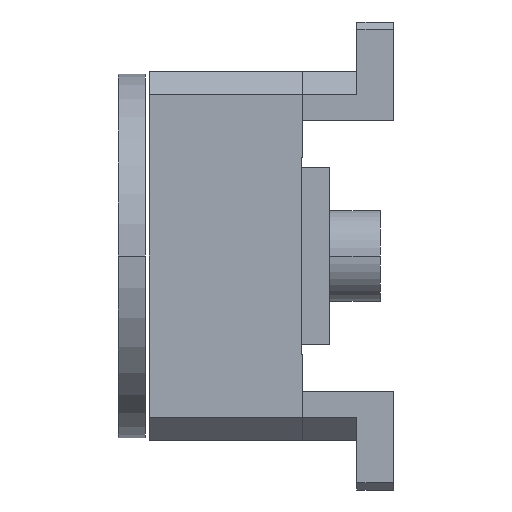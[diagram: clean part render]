
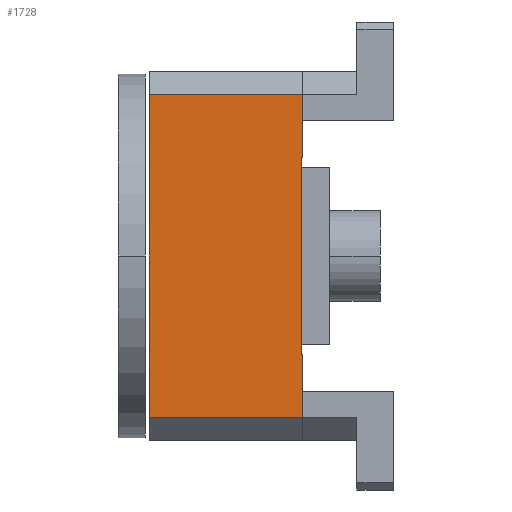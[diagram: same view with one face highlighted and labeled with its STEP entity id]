
A CAD part, left-side view. The second image highlights one B-rep face of the part: STEP entity #1728.
In plain terms, the highlighted planar face has unit normal (-1, 0, 0).
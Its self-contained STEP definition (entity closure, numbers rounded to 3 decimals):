
#227=DIRECTION('',(0.,0.,1.));
#228=VECTOR('',#227,25.5);
#229=CARTESIAN_POINT('',(-75.,-31.115,40.));
#230=LINE('',#229,#228);
#255=DIRECTION('',(0.,0.,1.));
#256=VECTOR('',#255,25.5);
#257=CARTESIAN_POINT('',(-75.,-31.115,-65.5));
#258=LINE('',#257,#256);
#310=DIRECTION('',(0.,0.,1.));
#311=VECTOR('',#310,131.);
#312=CARTESIAN_POINT('',(-75.,31.115,-65.5));
#313=LINE('',#312,#311);
#364=DIRECTION('',(0.,0.,1.));
#365=VECTOR('',#364,80.);
#366=CARTESIAN_POINT('',(-75.,-30.615,-40.));
#367=LINE('',#366,#365);
#368=DIRECTION('',(0.,-1.,0.));
#369=VECTOR('',#368,0.5);
#370=CARTESIAN_POINT('',(-75.,-30.615,-40.));
#371=LINE('',#370,#369);
#372=DIRECTION('',(0.,-1.,0.));
#373=VECTOR('',#372,62.23);
#374=CARTESIAN_POINT('',(-75.,31.115,-65.5));
#375=LINE('',#374,#373);
#376=DIRECTION('',(0.,-1.,0.));
#377=VECTOR('',#376,62.23);
#378=CARTESIAN_POINT('',(-75.,31.115,65.5));
#379=LINE('',#378,#377);
#380=DIRECTION('',(0.,-1.,0.));
#381=VECTOR('',#380,0.5);
#382=CARTESIAN_POINT('',(-75.,-30.615,40.));
#383=LINE('',#382,#381);
#1051=CARTESIAN_POINT('',(-75.,-31.115,-65.5));
#1053=VERTEX_POINT('',#1051);
#1057=CARTESIAN_POINT('',(-75.,31.115,-65.5));
#1058=VERTEX_POINT('',#1057);
#1060=CARTESIAN_POINT('',(-75.,-31.115,65.5));
#1062=VERTEX_POINT('',#1060);
#1063=CARTESIAN_POINT('',(-75.,31.115,65.5));
#1064=VERTEX_POINT('',#1063);
#1152=CARTESIAN_POINT('',(-75.,-31.115,40.));
#1154=VERTEX_POINT('',#1152);
#1161=CARTESIAN_POINT('',(-75.,-31.115,-40.));
#1162=VERTEX_POINT('',#1161);
#1167=CARTESIAN_POINT('',(-75.,-30.615,-40.));
#1168=CARTESIAN_POINT('',(-75.,-30.615,40.));
#1169=VERTEX_POINT('',#1167);
#1170=VERTEX_POINT('',#1168);
#1710=CARTESIAN_POINT('',(-75.,-31.115,-75.));
#1711=DIRECTION('',(-1.,0.,0.));
#1712=DIRECTION('',(0.,0.,1.));
#1713=AXIS2_PLACEMENT_3D('',#1710,#1711,#1712);
#1714=PLANE('',#1713);
#1715=ORIENTED_EDGE('',*,*,#1437,.F.);
#1717=ORIENTED_EDGE('',*,*,#1716,.T.);
#1718=ORIENTED_EDGE('',*,*,#1576,.F.);
#1719=ORIENTED_EDGE('',*,*,#1705,.F.);
#1720=ORIENTED_EDGE('',*,*,#1663,.T.);
#1722=ORIENTED_EDGE('',*,*,#1721,.T.);
#1723=ORIENTED_EDGE('',*,*,#1550,.F.);
#1725=ORIENTED_EDGE('',*,*,#1724,.F.);
#1726=EDGE_LOOP('',(#1715,#1717,#1718,#1719,#1720,#1722,#1723,#1725));
#1727=FACE_OUTER_BOUND('',#1726,.F.);
#1728=ADVANCED_FACE('',(#1727),#1714,.T.);
#1437=EDGE_CURVE('',#1169,#1170,#367,.T.);
#1550=EDGE_CURVE('',#1154,#1062,#230,.T.);
#1576=EDGE_CURVE('',#1053,#1162,#258,.T.);
#1663=EDGE_CURVE('',#1058,#1064,#313,.T.);
#1705=EDGE_CURVE('',#1058,#1053,#375,.T.);
#1716=EDGE_CURVE('',#1169,#1162,#371,.T.);
#1721=EDGE_CURVE('',#1064,#1062,#379,.T.);
#1724=EDGE_CURVE('',#1170,#1154,#383,.T.);
